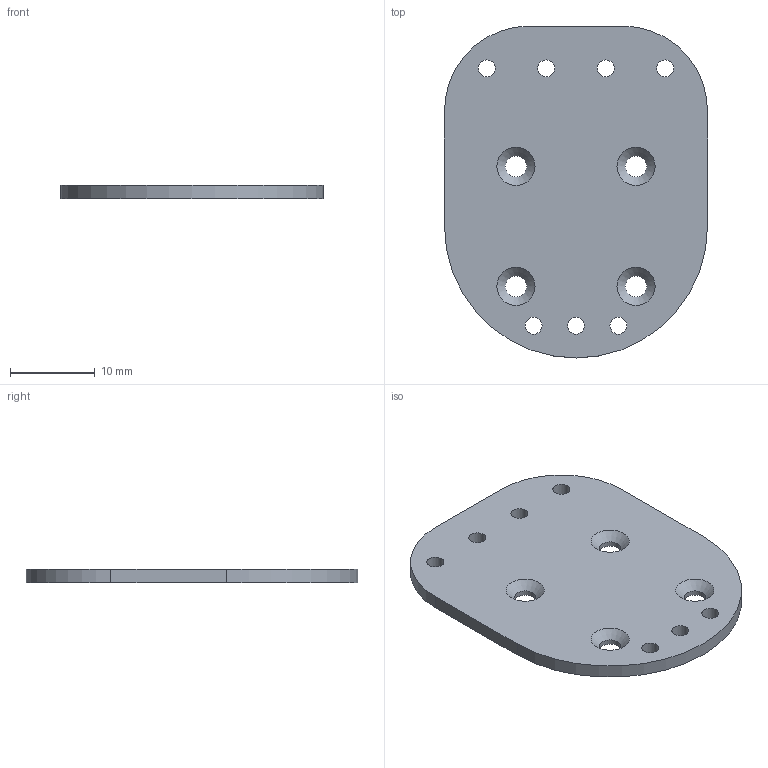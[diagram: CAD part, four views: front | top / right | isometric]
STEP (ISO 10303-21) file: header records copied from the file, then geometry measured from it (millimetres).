
FILE_DESCRIPTION(/* description */ ('','CAx-IF Rec.Pracs.---Representation and Presentation of Product Manufacturing Information (PMI)---3.8---2014-02-18'),/* implementation_level */ '2;1');
FILE_NAME(/* name */ 'D:\Inventor\1p2p\for vendors\DM mount\Optima order\TopSmaractRotation.stp',/* time_stamp */ '2018-05-07T13:42:41-07:00',/* author */ ('Radek'),/* organization */ (''),/* preprocessor_version */ 'ST-DEVELOPER v16.5',/* originating_system */ 'Autodesk Inventor 2017',/* authorisation */ '');
FILE_SCHEMA (('AP242_MANAGED_MODEL_BASED_3D_ENGINEERING_MIM_LF { 1 0 10303 442 1 1 4 }'));
Length unit declared in the file: millimetre
Products named in the file (1): TopSmaractRotation
Bounding box: 31 x 39.12 x 1.6 mm (x, y, z)
Volume: 1620.2 mm3; surface area: 2346.9 mm2
Topology: 1 solids, 1 shells, 23 faces, 59 edges, 38 vertices
Faces by surface type: cylinder 14, plane 5, cone 4
Full cylindrical faces by diameter (mm): 2 x7, 2.5 x4
Entity records: 712 total; most frequent: DIRECTION 124, CARTESIAN_POINT 106, ORIENTED_EDGE 88, EDGE_LOOP 60, AXIS2_PLACEMENT_3D 56, EDGE_CURVE 44, VERTEX_POINT 38, FACE_BOUND 37
